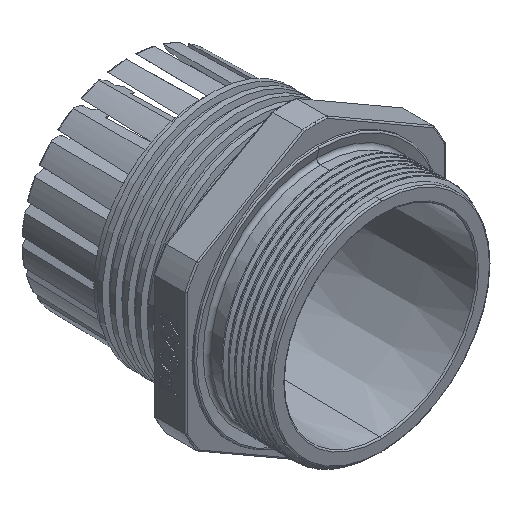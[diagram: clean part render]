
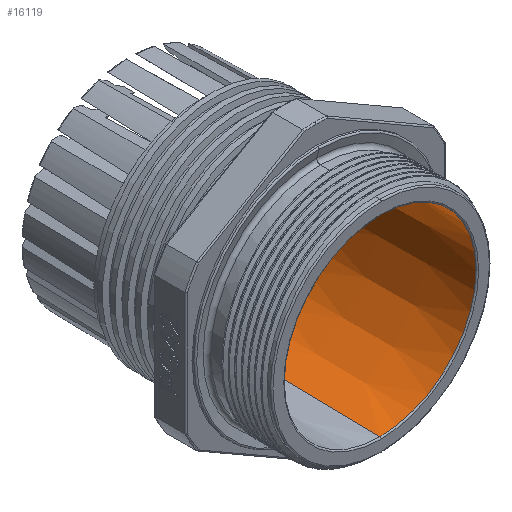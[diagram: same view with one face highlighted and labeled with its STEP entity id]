
A CAD part, isometric view. The second image highlights one B-rep face of the part: STEP entity #16119.
In plain terms, the highlighted conical face has half-angle 1 degrees and reference radius 22.085 mm.
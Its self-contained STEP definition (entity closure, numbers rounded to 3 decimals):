
#652 = EDGE_CURVE ( 'NONE', #5957, #9340, #12770, .T. ) ;
#1328 = CARTESIAN_POINT ( 'NONE',  ( 0., 0., 22.085 ) ) ;
#1890 = DIRECTION ( 'NONE',  ( 0., 0., -1. ) ) ;
#1953 = LINE ( 'NONE', #3374, #12922 ) ;
#3374 = CARTESIAN_POINT ( 'NONE',  ( 0., 0., -22.085 ) ) ;
#3383 = AXIS2_PLACEMENT_3D ( 'NONE', #18503, #3529, #1890 ) ;
#3529 = DIRECTION ( 'NONE',  ( 0., -1., 0. ) ) ;
#4218 = DIRECTION ( 'NONE',  ( 0., -1., 0. ) ) ;
#5070 = CONICAL_SURFACE ( 'NONE', #10654, 22.085, 0.017 ) ;
#5957 = VERTEX_POINT ( 'NONE', #8520 ) ;
#6453 = VERTEX_POINT ( 'NONE', #20833 ) ;
#6670 = CARTESIAN_POINT ( 'NONE',  ( 0., 33.5, 21.5 ) ) ;
#7152 = ORIENTED_EDGE ( 'NONE', *, *, #19526, .T. ) ;
#8093 = VERTEX_POINT ( 'NONE', #13605 ) ;
#8520 = CARTESIAN_POINT ( 'NONE',  ( 0., 33.5, -21.5 ) ) ;
#9276 = ORIENTED_EDGE ( 'NONE', *, *, #11328, .T. ) ;
#9340 = VERTEX_POINT ( 'NONE', #6670 ) ;
#9375 = DIRECTION ( 'NONE',  ( 0., 0., 1. ) ) ;
#10036 = DIRECTION ( 'NONE',  ( 0., -1., -0.017 ) ) ;
#10456 = DIRECTION ( 'NONE',  ( 0., -1., 0. ) ) ;
#10519 = CIRCLE ( 'NONE', #19256, 22.08 ) ;
#10654 = AXIS2_PLACEMENT_3D ( 'NONE', #12071, #10456, #15263 ) ;
#11328 = EDGE_CURVE ( 'NONE', #8093, #6453, #10519, .T. ) ;
#12071 = CARTESIAN_POINT ( 'NONE',  ( 0., 0., 0. ) ) ;
#12770 = CIRCLE ( 'NONE', #3383, 21.5 ) ;
#12922 = VECTOR ( 'NONE', #10036, 1000. ) ;
#13166 = EDGE_CURVE ( 'NONE', #9340, #6453, #13311, .T. ) ;
#13311 = LINE ( 'NONE', #1328, #13871 ) ;
#13605 = CARTESIAN_POINT ( 'NONE',  ( 0., 0.295, -22.08 ) ) ;
#13871 = VECTOR ( 'NONE', #19899, 1000. ) ;
#14025 = ORIENTED_EDGE ( 'NONE', *, *, #652, .F. ) ;
#15263 = DIRECTION ( 'NONE',  ( 0., 0., -1. ) ) ;
#15449 = ORIENTED_EDGE ( 'NONE', *, *, #13166, .F. ) ;
#16119 = ADVANCED_FACE ( 'NONE', ( #18978 ), #5070, .F. ) ;
#18503 = CARTESIAN_POINT ( 'NONE',  ( 0., 33.5, 0. ) ) ;
#18978 = FACE_OUTER_BOUND ( 'NONE', #19647, .T. ) ;
#19209 = CARTESIAN_POINT ( 'NONE',  ( 0., 0.295, 0. ) ) ;
#19256 = AXIS2_PLACEMENT_3D ( 'NONE', #19209, #4218, #9375 ) ;
#19526 = EDGE_CURVE ( 'NONE', #5957, #8093, #1953, .T. ) ;
#19647 = EDGE_LOOP ( 'NONE', ( #15449, #14025, #7152, #9276 ) ) ;
#19899 = DIRECTION ( 'NONE',  ( 0., -1., 0.017 ) ) ;
#20833 = CARTESIAN_POINT ( 'NONE',  ( 0., 0.295, 22.08 ) ) ;
